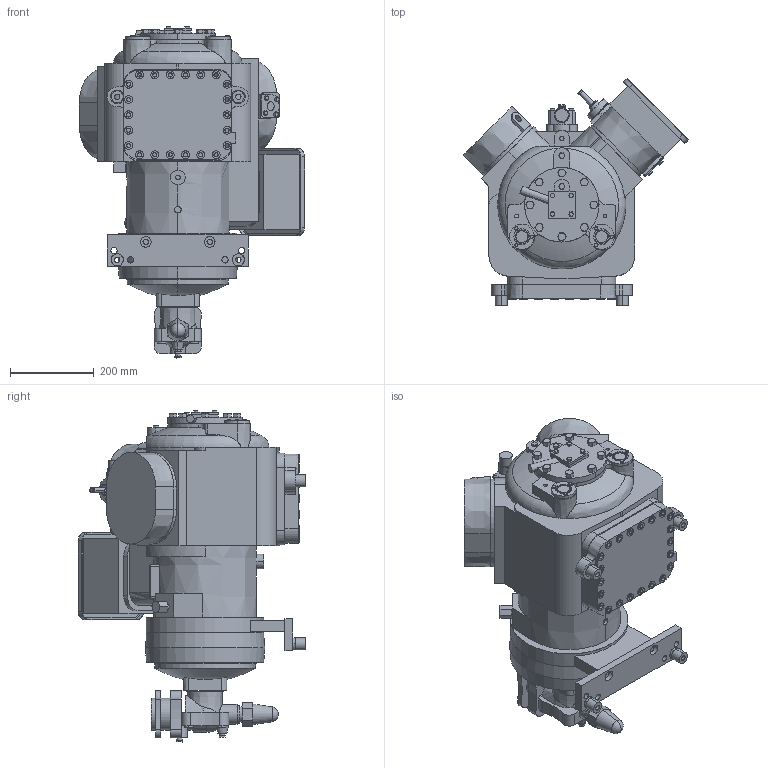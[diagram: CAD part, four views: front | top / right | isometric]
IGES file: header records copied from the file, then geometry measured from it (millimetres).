
Start section:  PTC IGES file: 06e41eh0l_sv.igs
Global section: file name: 06e41eh0l_sv.igs; native system: Pro/ENGINEER by Parametric Technology Corporation; preprocessor: 2003161; author: mahipatir; organization: Unknown; date: 040122.171519; units: inch
Bounding box: 538.47 x 543.58 x 792.78 mm (x, y, z)
Surface area: 1953186.5 mm2 (no closed solid volume)
Topology: 0 solids, 0 shells, 1193 faces, 5914 edges, 5912 vertices
Faces by surface type: revolution 657, bspline 536
